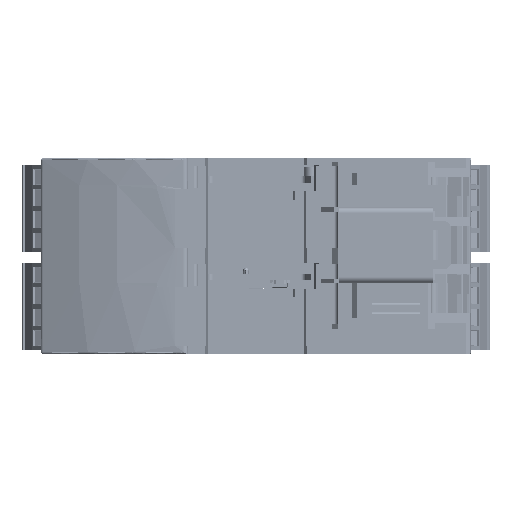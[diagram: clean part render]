
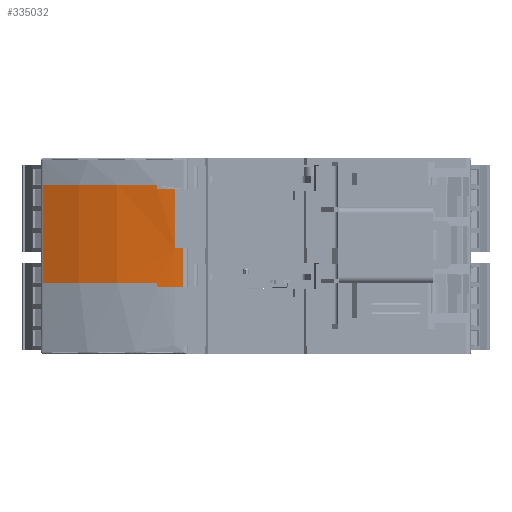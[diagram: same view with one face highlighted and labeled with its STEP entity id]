
A CAD part, left-side view. The second image highlights one B-rep face of the part: STEP entity #335032.
In plain terms, the highlighted cylindrical face has radius 80 mm (diameter 160 mm), a partial arc.
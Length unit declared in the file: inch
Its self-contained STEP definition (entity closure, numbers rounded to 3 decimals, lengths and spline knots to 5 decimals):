
#22878 = CARTESIAN_POINT ( 'NONE',  ( 0.19152, 2.93225, 3.12979 ) ) ;
#24531 = DIRECTION ( 'NONE',  ( 0., 0., 1. ) ) ;
#34096 = EDGE_CURVE ( 'NONE', #432428, #114237, #137623, .T. ) ;
#35884 = LINE ( 'NONE', #207700, #48026 ) ;
#48026 = VECTOR ( 'NONE', #93853, 39.37008 ) ;
#49337 = AXIS2_PLACEMENT_3D ( 'NONE', #329479, #375215, #261607 ) ;
#68919 = EDGE_CURVE ( 'NONE', #89019, #380148, #35884, .T. ) ;
#70361 = ORIENTED_EDGE ( 'NONE', *, *, #176292, .F. ) ;
#78862 = EDGE_CURVE ( 'NONE', #312397, #265361, #262293, .T. ) ;
#89019 = VERTEX_POINT ( 'NONE', #264713 ) ;
#93853 = DIRECTION ( 'NONE',  ( 0., 0., -1. ) ) ;
#109725 = FACE_OUTER_BOUND ( 'NONE', #229159, .T. ) ;
#114237 = VERTEX_POINT ( 'NONE', #199201 ) ;
#116917 = CARTESIAN_POINT ( 'NONE',  ( 3.33446, 2.72752, 3.82074 ) ) ;
#117228 = CARTESIAN_POINT ( 'NONE',  ( 3.33446, 2.72752, 3.25381 ) ) ;
#117597 = CARTESIAN_POINT ( 'NONE',  ( 0.20667, 3.0976, 2.91129 ) ) ;
#121849 = CYLINDRICAL_SURFACE ( 'NONE', #181929, 3.14961 ) ;
#125045 = CARTESIAN_POINT ( 'NONE',  ( 0.2053, 3.08579, 2.89948 ) ) ;
#128147 = CIRCLE ( 'NONE', #493848, 3.14961 ) ;
#137623 = LINE ( 'NONE', #22878, #465082 ) ;
#140265 = LINE ( 'NONE', #204973, #255755 ) ;
#148198 = ORIENTED_EDGE ( 'NONE', *, *, #201338, .F. ) ;
#148878 = CARTESIAN_POINT ( 'NONE',  ( 0.2053, 3.08579, 2.89948 ) ) ;
#151492 = VERTEX_POINT ( 'NONE', #117597 ) ;
#152784 = VERTEX_POINT ( 'NONE', #438585 ) ;
#172538 = ORIENTED_EDGE ( 'NONE', *, *, #217693, .T. ) ;
#174353 = ORIENTED_EDGE ( 'NONE', *, *, #500409, .T. ) ;
#176292 = EDGE_CURVE ( 'NONE', #494271, #89019, #233588, .T. ) ;
#178779 =( BOUNDED_CURVE ( )  B_SPLINE_CURVE ( 3, ( #399901, #435432, #316836, #125045 ),
 .UNSPECIFIED., .F., .F. ) 
 B_SPLINE_CURVE_WITH_KNOTS ( ( 4, 4 ),
 ( 4.59462, 4.59839 ),
 .UNSPECIFIED. ) 
 CURVE ( )  GEOMETRIC_REPRESENTATION_ITEM ( )  RATIONAL_B_SPLINE_CURVE ( ( 1., 1., 1., 1. ) ) 
 REPRESENTATION_ITEM ( '' )  );
#180962 = ORIENTED_EDGE ( 'NONE', *, *, #68919, .F. ) ;
#181929 = AXIS2_PLACEMENT_3D ( 'NONE', #214431, #372054, #448273 ) ;
#189499 = VERTEX_POINT ( 'NONE', #478253 ) ;
#195112 = DIRECTION ( 'NONE',  ( 0., 1., 0. ) ) ;
#196779 = DIRECTION ( 'NONE',  ( 0., 0., 1. ) ) ;
#199201 = CARTESIAN_POINT ( 'NONE',  ( 0.19152, 2.93225, 3.78924 ) ) ;
#201338 = EDGE_CURVE ( 'NONE', #189499, #152784, #128147, .T. ) ;
#203149 = DIRECTION ( 'NONE',  ( 0., 0., -1. ) ) ;
#204973 = CARTESIAN_POINT ( 'NONE',  ( 0.20667, 3.0976, 3.12979 ) ) ;
#207700 = CARTESIAN_POINT ( 'NONE',  ( 0.20667, 3.0976, 3.82074 ) ) ;
#214431 = CARTESIAN_POINT ( 'NONE',  ( 3.33446, 2.72752, 3.12979 ) ) ;
#215283 = EDGE_CURVE ( 'NONE', #114237, #380148, #474290, .T. ) ;
#217693 = EDGE_CURVE ( 'NONE', #494271, #152784, #323982, .T. ) ;
#229159 = EDGE_LOOP ( 'NONE', ( #180962, #70361, #172538, #148198, #407623, #281975, #243131, #371749, #174353, #381426, #490859 ) ) ;
#231573 = CARTESIAN_POINT ( 'NONE',  ( 0.18744, 2.8551, 3.25381 ) ) ;
#233588 = CIRCLE ( 'NONE', #263383, 3.14961 ) ;
#243131 = ORIENTED_EDGE ( 'NONE', *, *, #78862, .T. ) ;
#244130 = DIRECTION ( 'NONE',  ( 0., 1., 0. ) ) ;
#255755 = VECTOR ( 'NONE', #398302, 39.37008 ) ;
#260869 = AXIS2_PLACEMENT_3D ( 'NONE', #117228, #349654, #310617 ) ;
#261607 = DIRECTION ( 'NONE',  ( 0., 1., 0. ) ) ;
#262293 = CIRCLE ( 'NONE', #349797, 3.14961 ) ;
#263383 = AXIS2_PLACEMENT_3D ( 'NONE', #116917, #312013, #244130 ) ;
#264713 = CARTESIAN_POINT ( 'NONE',  ( 0.20667, 3.0976, 3.82074 ) ) ;
#265361 = VERTEX_POINT ( 'NONE', #483301 ) ;
#268738 = CARTESIAN_POINT ( 'NONE',  ( 0.51631, 4.13395, 3.82074 ) ) ;
#269886 = CARTESIAN_POINT ( 'NONE',  ( 0.20667, 3.0976, 3.78924 ) ) ;
#281975 = ORIENTED_EDGE ( 'NONE', *, *, #466325, .T. ) ;
#301697 = CARTESIAN_POINT ( 'NONE',  ( 3.33446, 2.72752, 2.93097 ) ) ;
#310617 = DIRECTION ( 'NONE',  ( 0., 1., 0. ) ) ;
#312013 = DIRECTION ( 'NONE',  ( 0., 0., 1. ) ) ;
#312397 = VERTEX_POINT ( 'NONE', #148878 ) ;
#316836 = CARTESIAN_POINT ( 'NONE',  ( 0.20575, 3.08973, 2.90341 ) ) ;
#323982 = LINE ( 'NONE', #435344, #493632 ) ;
#329479 = CARTESIAN_POINT ( 'NONE',  ( 3.33446, 2.72752, 3.78924 ) ) ;
#335032 = ADVANCED_FACE ( 'NONE', ( #109725 ), #121849, .T. ) ;
#349654 = DIRECTION ( 'NONE',  ( 0., 0., -1. ) ) ;
#349797 = AXIS2_PLACEMENT_3D ( 'NONE', #471183, #196779, #195112 ) ;
#361561 = CARTESIAN_POINT ( 'NONE',  ( 0.19152, 2.93225, 3.25381 ) ) ;
#371749 = ORIENTED_EDGE ( 'NONE', *, *, #471535, .T. ) ;
#372054 = DIRECTION ( 'NONE',  ( 0., 0., -1. ) ) ;
#375215 = DIRECTION ( 'NONE',  ( 0., 0., -1. ) ) ;
#380148 = VERTEX_POINT ( 'NONE', #269886 ) ;
#381426 = ORIENTED_EDGE ( 'NONE', *, *, #34096, .T. ) ;
#384698 = VERTEX_POINT ( 'NONE', #231573 ) ;
#390497 = DIRECTION ( 'NONE',  ( 0., 0., 1. ) ) ;
#398302 = DIRECTION ( 'NONE',  ( 0., 0., -1. ) ) ;
#399901 = CARTESIAN_POINT ( 'NONE',  ( 0.20667, 3.0976, 2.91129 ) ) ;
#407623 = ORIENTED_EDGE ( 'NONE', *, *, #435488, .T. ) ;
#417140 = DIRECTION ( 'NONE',  ( 0., 1., 0. ) ) ;
#432428 = VERTEX_POINT ( 'NONE', #361561 ) ;
#433297 = CIRCLE ( 'NONE', #260869, 3.14961 ) ;
#435344 = CARTESIAN_POINT ( 'NONE',  ( 0.51631, 4.13395, 3.12979 ) ) ;
#435432 = CARTESIAN_POINT ( 'NONE',  ( 0.20621, 3.09367, 2.90735 ) ) ;
#435488 = EDGE_CURVE ( 'NONE', #189499, #151492, #140265, .T. ) ;
#438585 = CARTESIAN_POINT ( 'NONE',  ( 0.51631, 4.13395, 2.93097 ) ) ;
#448273 = DIRECTION ( 'NONE',  ( 0., 1., 0. ) ) ;
#452609 = DIRECTION ( 'NONE',  ( 0., 0., -1. ) ) ;
#465082 = VECTOR ( 'NONE', #24531, 39.37008 ) ;
#466325 = EDGE_CURVE ( 'NONE', #151492, #312397, #178779, .T. ) ;
#468334 = CARTESIAN_POINT ( 'NONE',  ( 0.18744, 2.8551, 3.12979 ) ) ;
#471183 = CARTESIAN_POINT ( 'NONE',  ( 3.33446, 2.72752, 2.89948 ) ) ;
#471535 = EDGE_CURVE ( 'NONE', #265361, #384698, #480524, .T. ) ;
#474186 = VECTOR ( 'NONE', #390497, 39.37008 ) ;
#474290 = CIRCLE ( 'NONE', #49337, 3.14961 ) ;
#478253 = CARTESIAN_POINT ( 'NONE',  ( 0.20667, 3.0976, 2.93097 ) ) ;
#480524 = LINE ( 'NONE', #468334, #474186 ) ;
#483301 = CARTESIAN_POINT ( 'NONE',  ( 0.18744, 2.8551, 2.89948 ) ) ;
#490859 = ORIENTED_EDGE ( 'NONE', *, *, #215283, .T. ) ;
#493632 = VECTOR ( 'NONE', #203149, 39.37008 ) ;
#493848 = AXIS2_PLACEMENT_3D ( 'NONE', #301697, #452609, #417140 ) ;
#494271 = VERTEX_POINT ( 'NONE', #268738 ) ;
#500409 = EDGE_CURVE ( 'NONE', #384698, #432428, #433297, .T. ) ;
